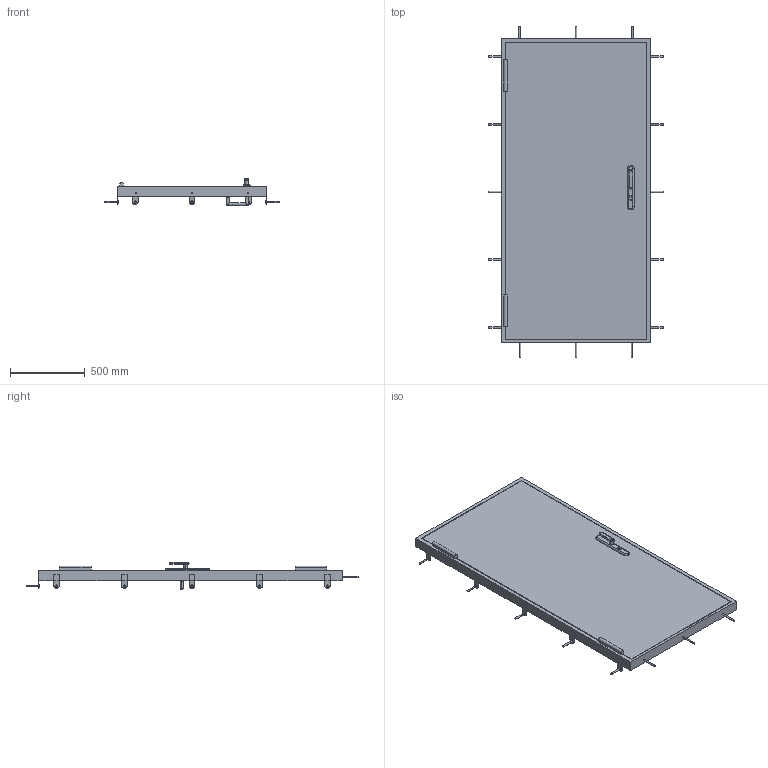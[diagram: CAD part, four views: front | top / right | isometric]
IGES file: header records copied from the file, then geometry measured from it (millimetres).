
Start section:  PTC IGES file: 017_000115.igs
Global section: file name: 017_000115.igs; native system: Creo Parametric by Parametric Technology Corporation; preprocessor: 2015280; author: set; organization: Unknown; date: 20171023.111456; units: millimetre
Bounding box: 1170 x 2227 x 181.5 mm (x, y, z)
Surface area: 4974546.1 mm2 (no closed solid volume)
Topology: 0 solids, 0 shells, 288 faces, 1606 edges, 1765 vertices
Faces by surface type: bspline 155, revolution 133
